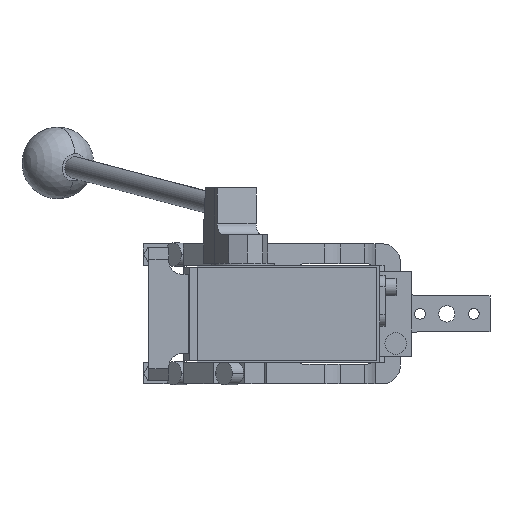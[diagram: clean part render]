
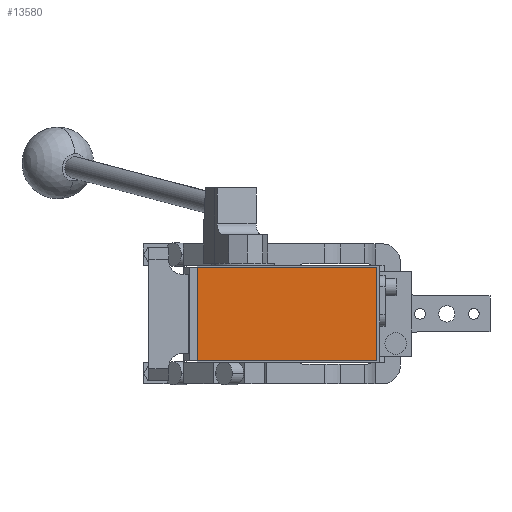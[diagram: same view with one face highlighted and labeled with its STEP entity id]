
A CAD part, front view. The second image highlights one B-rep face of the part: STEP entity #13580.
In plain terms, the highlighted planar face has unit normal (0, -1, 0).
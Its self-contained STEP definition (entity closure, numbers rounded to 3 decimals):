
#807 = AXIS2_PLACEMENT_3D ( 'NONE', #2594, #12570, #13970 ) ;
#1185 = VECTOR ( 'NONE', #3471, 1000. ) ;
#2594 = CARTESIAN_POINT ( 'NONE',  ( 0., -286.5, 0. ) ) ;
#2898 = VERTEX_POINT ( 'NONE', #3402 ) ;
#3090 = CARTESIAN_POINT ( 'NONE',  ( -19., -286.5, -26. ) ) ;
#3402 = CARTESIAN_POINT ( 'NONE',  ( 81., -286.5, 26. ) ) ;
#3436 = DIRECTION ( 'NONE',  ( -1., 0., 0. ) ) ;
#3471 = DIRECTION ( 'NONE',  ( 1., 0., 0. ) ) ;
#3858 = CARTESIAN_POINT ( 'NONE',  ( -19., -286.5, 26. ) ) ;
#4491 = LINE ( 'NONE', #14658, #10948 ) ;
#5046 = PLANE ( 'NONE',  #807 ) ;
#5363 = ORIENTED_EDGE ( 'NONE', *, *, #12041, .T. ) ;
#5503 = CARTESIAN_POINT ( 'NONE',  ( 81., -286.5, -26. ) ) ;
#6970 = VECTOR ( 'NONE', #10317, 1000. ) ;
#7725 = FACE_OUTER_BOUND ( 'NONE', #12865, .T. ) ;
#8839 = VECTOR ( 'NONE', #11759, 1000. ) ;
#9099 = EDGE_CURVE ( 'NONE', #2898, #10943, #4491, .T. ) ;
#9667 = VERTEX_POINT ( 'NONE', #5503 ) ;
#10317 = DIRECTION ( 'NONE',  ( 0., 0., 1. ) ) ;
#10597 = EDGE_CURVE ( 'NONE', #13219, #9667, #12135, .T. ) ;
#10926 = CARTESIAN_POINT ( 'NONE',  ( -19., -286.5, -26. ) ) ;
#10943 = VERTEX_POINT ( 'NONE', #3858 ) ;
#10948 = VECTOR ( 'NONE', #3436, 1000. ) ;
#11678 = LINE ( 'NONE', #14403, #8839 ) ;
#11759 = DIRECTION ( 'NONE',  ( 0., 0., -1. ) ) ;
#12041 = EDGE_CURVE ( 'NONE', #9667, #2898, #14172, .T. ) ;
#12135 = LINE ( 'NONE', #10926, #1185 ) ;
#12570 = DIRECTION ( 'NONE',  ( 0., -1., 0. ) ) ;
#12865 = EDGE_LOOP ( 'NONE', ( #15331, #15167, #5363, #15456 ) ) ;
#12945 = CARTESIAN_POINT ( 'NONE',  ( 81., -286.5, 26. ) ) ;
#13219 = VERTEX_POINT ( 'NONE', #3090 ) ;
#13580 = ADVANCED_FACE ( 'NONE', ( #7725 ), #5046, .T. ) ;
#13970 = DIRECTION ( 'NONE',  ( 0., 0., -1. ) ) ;
#14172 = LINE ( 'NONE', #12945, #6970 ) ;
#14403 = CARTESIAN_POINT ( 'NONE',  ( -19., -286.5, 26. ) ) ;
#14658 = CARTESIAN_POINT ( 'NONE',  ( -19., -286.5, 26. ) ) ;
#15167 = ORIENTED_EDGE ( 'NONE', *, *, #10597, .T. ) ;
#15210 = EDGE_CURVE ( 'NONE', #10943, #13219, #11678, .T. ) ;
#15331 = ORIENTED_EDGE ( 'NONE', *, *, #15210, .T. ) ;
#15456 = ORIENTED_EDGE ( 'NONE', *, *, #9099, .T. ) ;
